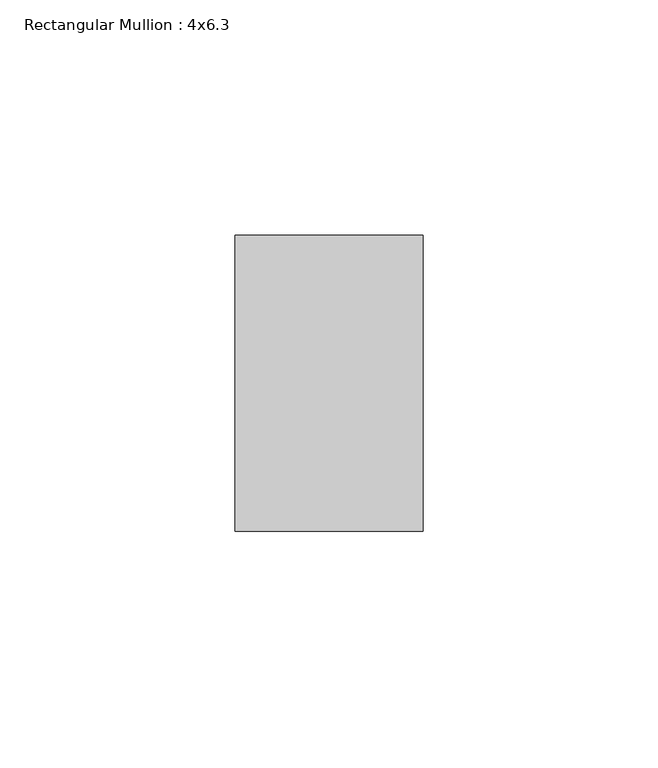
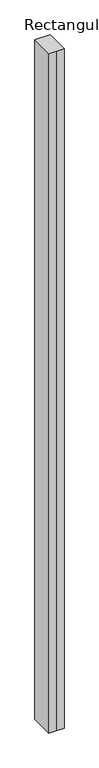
"""IFC4 building model written with IfcOpenShell, lengths in millimetres: member geometry, Rectangular Mullion : 4x6.3."""

from ifc_helpers import new_model, si_unit, frame, origin, place, context, project, spatial, polyline, outline, extrude, source, transform, mapped, element, save


def rectangular_mullion_4x6_3_3c117263(model_context):
    return source(origin(), model_context, "Body", "SweptSolid", [
        extrude(outline(polyline([(-20.0, 20.0), (-20.0, 83.0), (20.0, 83.0), (20.0, 20.0), (0.0, 20.0), (-20.0, 20.0)])), frame((0.0, 0.0, -1883.903368), z_axis=(0.0, 0.0, 1.0), x_axis=(1.0, 0.0, 0.0)), (0.0, 0.0, 1.0), 1883.903368),
    ])


if __name__ == "__main__":
    model = new_model("IFC4")
    model_context = context("Model", 3, world=origin())
    ifc_project = project(units=[si_unit("LENGTHUNIT", "METRE", prefix="MILLI")], contexts=[model_context])
    site = spatial("IfcSite", under=ifc_project)
    building = spatial("IfcBuilding", under=site)
    placement = place(None, origin())
    rectangular_mullion_4x6_3_shape = rectangular_mullion_4x6_3_3c117263(model_context)
    element("IfcMember", 1, ObjectType="Rectangular Mullion : 4x6.3", at=placement, inside=building, context=model_context, shape_type="MappedRepresentation", body=[
        mapped(rectangular_mullion_4x6_3_shape, transform((0.0, 0.0, 0.0), x_axis=(1.0, 0.0, 0.0), y_axis=(0.0, 1.0, 0.0), z_axis=(0.0, 0.0, 1.0))),
    ])
    save(model, "model.ifc")
